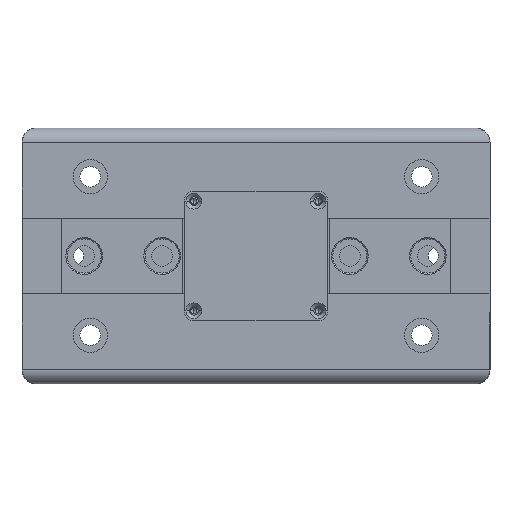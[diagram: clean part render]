
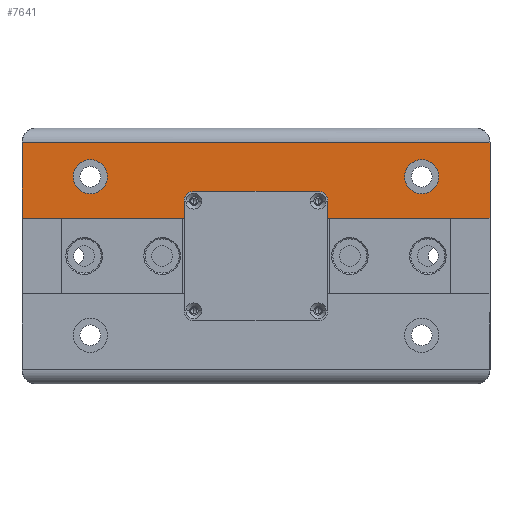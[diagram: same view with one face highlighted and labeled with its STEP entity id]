
A CAD part, front view. The second image highlights one B-rep face of the part: STEP entity #7641.
In plain terms, the highlighted planar face has unit normal (0, -1, 0).
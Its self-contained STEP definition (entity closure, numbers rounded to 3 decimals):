
#2 = CARTESIAN_POINT ( 'NONE',  ( 68., 0., 32.5 ) ) ;
#72 = LINE ( 'NONE', #5375, #7843 ) ;
#214 = EDGE_CURVE ( 'NONE', #10392, #13964, #8460, .T. ) ;
#230 = CARTESIAN_POINT ( 'NONE',  ( -96., 0., 15.5 ) ) ;
#284 = DIRECTION ( 'NONE',  ( 0., -1., 0. ) ) ;
#299 = CARTESIAN_POINT ( 'NONE',  ( 68., 0., 32.5 ) ) ;
#518 = CARTESIAN_POINT ( 'NONE',  ( 0., 0., 15.5 ) ) ;
#1114 = CARTESIAN_POINT ( 'NONE',  ( -29.5, 0., 22.5 ) ) ;
#1240 = ORIENTED_EDGE ( 'NONE', *, *, #14315, .F. ) ;
#1249 = CARTESIAN_POINT ( 'NONE',  ( 25.5, 0., 26.5 ) ) ;
#1362 = DIRECTION ( 'NONE',  ( 0., 0., 1. ) ) ;
#1382 = DIRECTION ( 'NONE',  ( 0., 0., -1. ) ) ;
#1390 = ORIENTED_EDGE ( 'NONE', *, *, #2035, .F. ) ;
#1428 = CARTESIAN_POINT ( 'NONE',  ( 0., 0., 0. ) ) ;
#1430 = DIRECTION ( 'NONE',  ( 0., 0., -1. ) ) ;
#1452 = DIRECTION ( 'NONE',  ( 0., 0., 1. ) ) ;
#1476 = EDGE_CURVE ( 'NONE', #10392, #3208, #6695, .T. ) ;
#1567 = EDGE_CURVE ( 'NONE', #14087, #13577, #10955, .T. ) ;
#1694 = ORIENTED_EDGE ( 'NONE', *, *, #2521, .F. ) ;
#1695 = VECTOR ( 'NONE', #10411, 1000. ) ;
#1733 = VERTEX_POINT ( 'NONE', #9462 ) ;
#1828 = VECTOR ( 'NONE', #9971, 1000. ) ;
#2035 = EDGE_CURVE ( 'NONE', #14666, #3208, #5264, .T. ) ;
#2096 = AXIS2_PLACEMENT_3D ( 'NONE', #11390, #9103, #2182 ) ;
#2103 = DIRECTION ( 'NONE',  ( 1., 0., 0. ) ) ;
#2182 = DIRECTION ( 'NONE',  ( 0., 0., -1. ) ) ;
#2211 = EDGE_LOOP ( 'NONE', ( #1390, #8203, #2914, #6888, #1694, #8791, #1240, #12221, #13814, #8100 ) ) ;
#2278 = CARTESIAN_POINT ( 'NONE',  ( -25.5, 0., 22.5 ) ) ;
#2436 = EDGE_CURVE ( 'NONE', #14147, #1733, #13930, .T. ) ;
#2521 = EDGE_CURVE ( 'NONE', #1733, #3920, #6809, .T. ) ;
#2524 = CARTESIAN_POINT ( 'NONE',  ( 0., 0., 26.5 ) ) ;
#2573 = DIRECTION ( 'NONE',  ( -1., 0., 0. ) ) ;
#2614 = DIRECTION ( 'NONE',  ( 0., -1., 0. ) ) ;
#2797 = EDGE_LOOP ( 'NONE', ( #5751, #5840 ) ) ;
#2914 = ORIENTED_EDGE ( 'NONE', *, *, #1567, .F. ) ;
#3208 = VERTEX_POINT ( 'NONE', #12276 ) ;
#3243 = AXIS2_PLACEMENT_3D ( 'NONE', #13911, #2614, #1452 ) ;
#3422 = AXIS2_PLACEMENT_3D ( 'NONE', #2278, #7958, #7157 ) ;
#3440 = VERTEX_POINT ( 'NONE', #10447 ) ;
#3491 = EDGE_CURVE ( 'NONE', #8652, #10912, #4394, .T. ) ;
#3601 = FACE_BOUND ( 'NONE', #2797, .T. ) ;
#3920 = VERTEX_POINT ( 'NONE', #1114 ) ;
#4120 = FACE_BOUND ( 'NONE', #6458, .T. ) ;
#4381 = CARTESIAN_POINT ( 'NONE',  ( -96., 0., 46.5 ) ) ;
#4394 = CIRCLE ( 'NONE', #14477, 7. ) ;
#4448 = VERTEX_POINT ( 'NONE', #5113 ) ;
#4540 = CARTESIAN_POINT ( 'NONE',  ( -29.5, 0., 15.5 ) ) ;
#4550 = VECTOR ( 'NONE', #2103, 1000. ) ;
#4609 = PLANE ( 'NONE',  #10631 ) ;
#4836 = LINE ( 'NONE', #12239, #1828 ) ;
#4858 = DIRECTION ( 'NONE',  ( 0., -1., 0. ) ) ;
#5113 = CARTESIAN_POINT ( 'NONE',  ( 68., 0., 25.5 ) ) ;
#5220 = ORIENTED_EDGE ( 'NONE', *, *, #6895, .F. ) ;
#5264 = LINE ( 'NONE', #6495, #4550 ) ;
#5363 = CIRCLE ( 'NONE', #8469, 7. ) ;
#5375 = CARTESIAN_POINT ( 'NONE',  ( 29.5, 0., 0. ) ) ;
#5587 = EDGE_CURVE ( 'NONE', #13964, #6725, #72, .T. ) ;
#5751 = ORIENTED_EDGE ( 'NONE', *, *, #14036, .F. ) ;
#5840 = ORIENTED_EDGE ( 'NONE', *, *, #6585, .F. ) ;
#6169 = VECTOR ( 'NONE', #2573, 1000. ) ;
#6430 = EDGE_CURVE ( 'NONE', #3920, #14087, #11757, .T. ) ;
#6458 = EDGE_LOOP ( 'NONE', ( #5220, #8098 ) ) ;
#6495 = CARTESIAN_POINT ( 'NONE',  ( 0., 0., 46.5 ) ) ;
#6585 = EDGE_CURVE ( 'NONE', #3440, #4448, #8537, .T. ) ;
#6695 = LINE ( 'NONE', #6999, #14341 ) ;
#6725 = VERTEX_POINT ( 'NONE', #13053 ) ;
#6809 = CIRCLE ( 'NONE', #3422, 4. ) ;
#6888 = ORIENTED_EDGE ( 'NONE', *, *, #6430, .F. ) ;
#6895 = EDGE_CURVE ( 'NONE', #10912, #8652, #11366, .T. ) ;
#6999 = CARTESIAN_POINT ( 'NONE',  ( 96., 0., -52.5 ) ) ;
#7157 = DIRECTION ( 'NONE',  ( 0., 0., 1. ) ) ;
#7470 = AXIS2_PLACEMENT_3D ( 'NONE', #299, #4858, #1430 ) ;
#7595 = EDGE_CURVE ( 'NONE', #14666, #13577, #4836, .T. ) ;
#7641 = ADVANCED_FACE ( 'NONE', ( #14599, #4120, #3601 ), #4609, .F. ) ;
#7842 = DIRECTION ( 'NONE',  ( 0., -1., 0. ) ) ;
#7843 = VECTOR ( 'NONE', #13334, 1000. ) ;
#7870 = DIRECTION ( 'NONE',  ( 0., 0., 1. ) ) ;
#7958 = DIRECTION ( 'NONE',  ( 0., -1., 0. ) ) ;
#8064 = CARTESIAN_POINT ( 'NONE',  ( -68., 0., 25.5 ) ) ;
#8098 = ORIENTED_EDGE ( 'NONE', *, *, #3491, .F. ) ;
#8100 = ORIENTED_EDGE ( 'NONE', *, *, #1476, .T. ) ;
#8201 = DIRECTION ( 'NONE',  ( 0., 0., -1. ) ) ;
#8203 = ORIENTED_EDGE ( 'NONE', *, *, #7595, .T. ) ;
#8460 = LINE ( 'NONE', #518, #10774 ) ;
#8469 = AXIS2_PLACEMENT_3D ( 'NONE', #2, #7842, #8954 ) ;
#8537 = CIRCLE ( 'NONE', #7470, 7. ) ;
#8652 = VERTEX_POINT ( 'NONE', #9379 ) ;
#8791 = ORIENTED_EDGE ( 'NONE', *, *, #2436, .F. ) ;
#8954 = DIRECTION ( 'NONE',  ( 0., 0., -1. ) ) ;
#9103 = DIRECTION ( 'NONE',  ( 0., -1., 0. ) ) ;
#9115 = CARTESIAN_POINT ( 'NONE',  ( 0., 0., 15.5 ) ) ;
#9379 = CARTESIAN_POINT ( 'NONE',  ( -68., 0., 39.5 ) ) ;
#9462 = CARTESIAN_POINT ( 'NONE',  ( -25.5, 0., 26.5 ) ) ;
#9593 = DIRECTION ( 'NONE',  ( -1., 0., 0. ) ) ;
#9971 = DIRECTION ( 'NONE',  ( 0., 0., -1. ) ) ;
#10321 = CIRCLE ( 'NONE', #3243, 4. ) ;
#10392 = VERTEX_POINT ( 'NONE', #11667 ) ;
#10411 = DIRECTION ( 'NONE',  ( -1., 0., 0. ) ) ;
#10447 = CARTESIAN_POINT ( 'NONE',  ( 68., 0., 39.5 ) ) ;
#10631 = AXIS2_PLACEMENT_3D ( 'NONE', #1428, #11400, #7870 ) ;
#10774 = VECTOR ( 'NONE', #9593, 1000. ) ;
#10912 = VERTEX_POINT ( 'NONE', #8064 ) ;
#10955 = LINE ( 'NONE', #9115, #6169 ) ;
#11366 = CIRCLE ( 'NONE', #2096, 7. ) ;
#11390 = CARTESIAN_POINT ( 'NONE',  ( -68., 0., 32.5 ) ) ;
#11400 = DIRECTION ( 'NONE',  ( 0., 1., 0. ) ) ;
#11667 = CARTESIAN_POINT ( 'NONE',  ( 96., 0., 15.5 ) ) ;
#11757 = LINE ( 'NONE', #12530, #12998 ) ;
#12221 = ORIENTED_EDGE ( 'NONE', *, *, #5587, .F. ) ;
#12239 = CARTESIAN_POINT ( 'NONE',  ( -96., 0., -52.5 ) ) ;
#12276 = CARTESIAN_POINT ( 'NONE',  ( 96., 0., 46.5 ) ) ;
#12530 = CARTESIAN_POINT ( 'NONE',  ( -29.5, 0., 0. ) ) ;
#12998 = VECTOR ( 'NONE', #1382, 1000. ) ;
#13053 = CARTESIAN_POINT ( 'NONE',  ( 29.5, 0., 22.5 ) ) ;
#13334 = DIRECTION ( 'NONE',  ( 0., 0., 1. ) ) ;
#13577 = VERTEX_POINT ( 'NONE', #230 ) ;
#13814 = ORIENTED_EDGE ( 'NONE', *, *, #214, .F. ) ;
#13878 = CARTESIAN_POINT ( 'NONE',  ( -68., 0., 32.5 ) ) ;
#13911 = CARTESIAN_POINT ( 'NONE',  ( 25.5, 0., 22.5 ) ) ;
#13930 = LINE ( 'NONE', #2524, #1695 ) ;
#13964 = VERTEX_POINT ( 'NONE', #14330 ) ;
#14036 = EDGE_CURVE ( 'NONE', #4448, #3440, #5363, .T. ) ;
#14087 = VERTEX_POINT ( 'NONE', #4540 ) ;
#14147 = VERTEX_POINT ( 'NONE', #1249 ) ;
#14315 = EDGE_CURVE ( 'NONE', #6725, #14147, #10321, .T. ) ;
#14330 = CARTESIAN_POINT ( 'NONE',  ( 29.5, 0., 15.5 ) ) ;
#14341 = VECTOR ( 'NONE', #1362, 1000. ) ;
#14477 = AXIS2_PLACEMENT_3D ( 'NONE', #13878, #284, #8201 ) ;
#14599 = FACE_OUTER_BOUND ( 'NONE', #2211, .T. ) ;
#14666 = VERTEX_POINT ( 'NONE', #4381 ) ;
